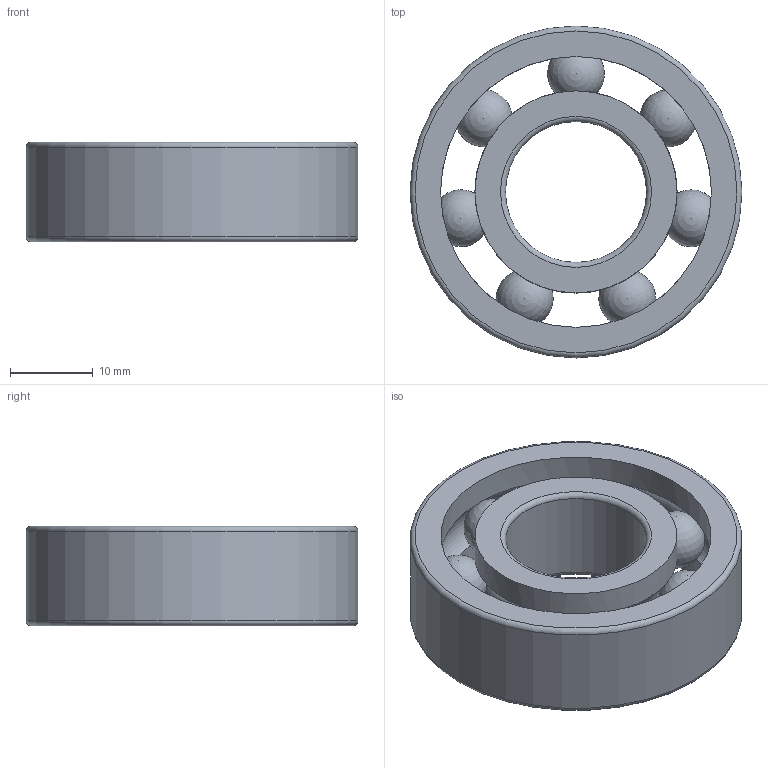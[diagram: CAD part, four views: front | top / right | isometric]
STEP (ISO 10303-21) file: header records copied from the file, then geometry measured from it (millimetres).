
FILE_DESCRIPTION(/* description */ ('SS BALL BEARING WITH RS1 SEALS'),/* implementation_level */ '2;1');
FILE_NAME(/* name */ 'SS6203-2RS.stp',/* time_stamp */ '2022-09-16T10:38:37+02:00',/* author */ ('ML'),/* organization */ ('CARRYLINE'),/* preprocessor_version */ 'ST-DEVELOPER v19.2',/* originating_system */ 'Autodesk Inventor 2023',/* authorisation */ '');
FILE_SCHEMA (('AUTOMOTIVE_DESIGN { 1 0 10303 214 3 1 1 }'));
Length unit declared in the file: millimetre
Products named in the file (1): SS6203-2RS
Bounding box: 40 x 40 x 12 mm (x, y, z)
Volume: 8130.8 mm3; surface area: 6721.1 mm2
Topology: 1 solids, 1 shells, 35 faces, 135 edges, 90 vertices
Faces by surface type: torus 18, sphere 7, cylinder 6, plane 4
Full cylindrical faces by diameter (mm): 17 x1, 24.36 x2, 32.64 x2, 40 x1
Entity records: 2083 total; most frequent: CARTESIAN_POINT 989, ORIENTED_EDGE 242, DIRECTION 196, EDGE_CURVE 121, AXIS2_PLACEMENT_3D 95, VERTEX_POINT 90, CIRCLE 59, B_SPLINE_CURVE_WITH_KNOTS 56
